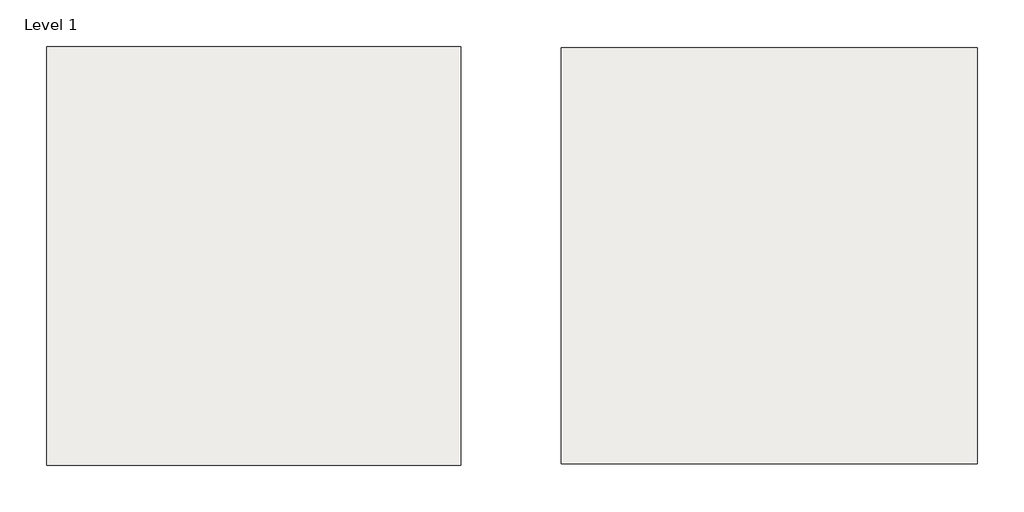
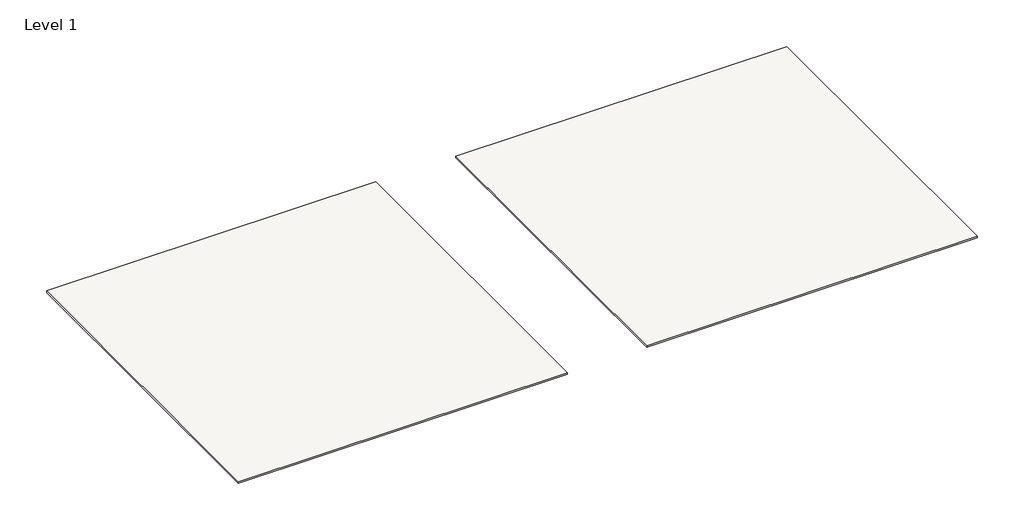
# One storey: 2 coverings.
"""IFC4 building model written with IfcOpenShell, lengths in millimetres."""

from ifc_helpers import new_model, si_unit, origin, origin_with_axes, place, context, project, spatial, polyline, outline, extrude, element, save

model = new_model("IFC4")

# Units and contexts
model_context = context("Model", 3, world=origin())
ifc_project = project(units=[si_unit("LENGTHUNIT", "METRE", prefix="MILLI")], contexts=[model_context])

# Site, building, storey
site = spatial("IfcSite", under=ifc_project)
building = spatial("IfcBuilding", under=site)
storey = spatial("IfcBuildingStorey", under=building, Name="Level 1", Elevation=0.0)

# Coverings
placement = place(None, origin())
element("IfcCovering", 1, ObjectType="Spanair Torsion Spring - 24''x48''x1\" Deep Panels - Interior", at=placement, inside=storey, context=model_context, shape_type="SweptSolid", body=[
    extrude(outline(polyline([(-2901.3776569, 1606.0929166), (-2901.3776569, -3245.3070834), (-7752.7776569, -3245.3070834), (-7752.7776569, 1606.0929166), (-2901.3776569, 1606.0929166)])), origin_with_axes(), (0.0, 0.0, 1.0), 25.4),
])
element("IfcCovering", 2, ObjectType="Spanair Torsion Spring - 24''x48''x1\" Deep Panels - Interior", at=placement, inside=storey, context=model_context, shape_type="SweptSolid", body=[
    extrude(outline(polyline([(-8922.6562651, 1618.7929166), (-8922.6562651, -3258.0070834), (-13748.6562651, -3258.0070834), (-13748.6562651, 1618.7929166), (-8922.6562651, 1618.7929166)])), origin_with_axes(), (0.0, 0.0, 1.0), 25.4),
])

save(model, "model.ifc")
